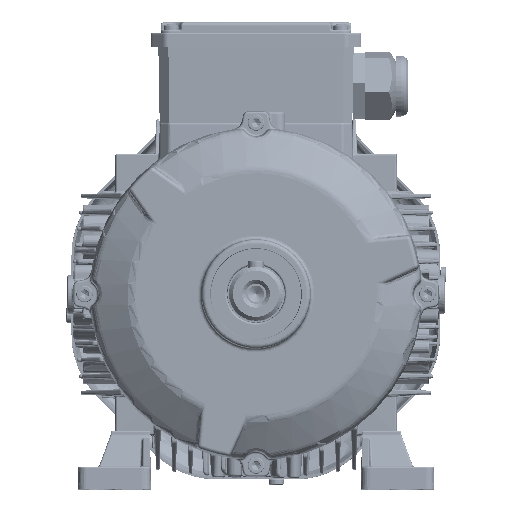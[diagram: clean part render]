
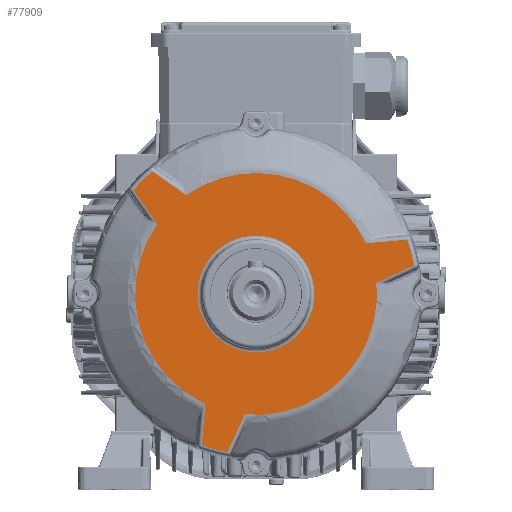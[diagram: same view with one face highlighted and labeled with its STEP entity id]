
A CAD part, top view. The second image highlights one B-rep face of the part: STEP entity #77909.
In plain terms, the highlighted planar face has unit normal (0, 0, 1).
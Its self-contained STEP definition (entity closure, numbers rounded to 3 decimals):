
#20345=B_SPLINE_CURVE_WITH_KNOTS('',3,(#476058,#476059,#476060,#476061),
 .UNSPECIFIED.,.F.,.F.,(4,4),(0.,1.),.UNSPECIFIED.);
#20346=B_SPLINE_CURVE_WITH_KNOTS('',3,(#476063,#476064,#476065,#476066),
 .UNSPECIFIED.,.F.,.F.,(4,4),(0.,1.),.UNSPECIFIED.);
#59929=FACE_BOUND('',#103192,.T.);
#59930=FACE_BOUND('',#103193,.T.);
#62754=PLANE('',#264651);
#77909=ADVANCED_FACE('',(#59929,#59930),#62754,.T.);
#103192=EDGE_LOOP('',(#156466));
#103193=EDGE_LOOP('',(#156467,#156468,#156469,#156470,#156471,#156472,#156473,
#156474,#156475,#156476,#156477,#156478,#156479,#156480));
#156466=ORIENTED_EDGE('',*,*,#205506,.T.);
#156467=ORIENTED_EDGE('',*,*,#205507,.T.);
#156468=ORIENTED_EDGE('',*,*,#205508,.F.);
#156469=ORIENTED_EDGE('',*,*,#205509,.T.);
#156470=ORIENTED_EDGE('',*,*,#205510,.T.);
#156471=ORIENTED_EDGE('',*,*,#205511,.T.);
#156472=ORIENTED_EDGE('',*,*,#205512,.F.);
#156473=ORIENTED_EDGE('',*,*,#205513,.T.);
#156474=ORIENTED_EDGE('',*,*,#205514,.T.);
#156475=ORIENTED_EDGE('',*,*,#205515,.T.);
#156476=ORIENTED_EDGE('',*,*,#205516,.F.);
#156477=ORIENTED_EDGE('',*,*,#205517,.F.);
#156478=ORIENTED_EDGE('',*,*,#205518,.F.);
#156479=ORIENTED_EDGE('',*,*,#205519,.T.);
#156480=ORIENTED_EDGE('',*,*,#205520,.T.);
#178044=VERTEX_POINT('',#476036);
#178045=VERTEX_POINT('',#476038);
#178046=VERTEX_POINT('',#476039);
#178047=VERTEX_POINT('',#476041);
#178048=VERTEX_POINT('',#476043);
#178049=VERTEX_POINT('',#476045);
#178050=VERTEX_POINT('',#476047);
#178051=VERTEX_POINT('',#476049);
#178052=VERTEX_POINT('',#476051);
#178053=VERTEX_POINT('',#476053);
#178054=VERTEX_POINT('',#476055);
#178055=VERTEX_POINT('',#476057);
#178056=VERTEX_POINT('',#476062);
#178057=VERTEX_POINT('',#476067);
#178058=VERTEX_POINT('',#476069);
#205506=EDGE_CURVE('',#178044,#178044,#236775,.T.);
#205507=EDGE_CURVE('',#178045,#178046,#217114,.T.);
#205508=EDGE_CURVE('',#178047,#178046,#236776,.T.);
#205509=EDGE_CURVE('',#178047,#178048,#217115,.T.);
#205510=EDGE_CURVE('',#178048,#178049,#236777,.T.);
#205511=EDGE_CURVE('',#178049,#178050,#217116,.T.);
#205512=EDGE_CURVE('',#178051,#178050,#236778,.T.);
#205513=EDGE_CURVE('',#178051,#178052,#217117,.T.);
#205514=EDGE_CURVE('',#178052,#178053,#236779,.T.);
#205515=EDGE_CURVE('',#178053,#178054,#217118,.T.);
#205516=EDGE_CURVE('',#178055,#178054,#236780,.T.);
#205517=EDGE_CURVE('',#178056,#178055,#20345,.T.);
#205518=EDGE_CURVE('',#178057,#178056,#20346,.T.);
#205519=EDGE_CURVE('',#178057,#178058,#217119,.T.);
#205520=EDGE_CURVE('',#178058,#178045,#236781,.T.);
#217114=LINE('',#476037,#226939);
#217115=LINE('',#476042,#226940);
#217116=LINE('',#476046,#226941);
#217117=LINE('',#476050,#226942);
#217118=LINE('',#476054,#226943);
#217119=LINE('',#476068,#226944);
#226939=VECTOR('',#314654,1.);
#226940=VECTOR('',#314657,1.);
#226941=VECTOR('',#314660,1.);
#226942=VECTOR('',#314663,1.);
#226943=VECTOR('',#314666,1.);
#226944=VECTOR('',#314669,1.);
#236775=CIRCLE('',#264644,30.326);
#236776=CIRCLE('',#264645,62.778);
#236777=CIRCLE('',#264646,83.387);
#236778=CIRCLE('',#264647,62.778);
#236779=CIRCLE('',#264648,83.387);
#236780=CIRCLE('',#264649,62.778);
#236781=CIRCLE('',#264650,83.387);
#264644=AXIS2_PLACEMENT_3D('',#476035,#314652,#314653);
#264645=AXIS2_PLACEMENT_3D('',#476040,#314655,#314656);
#264646=AXIS2_PLACEMENT_3D('',#476044,#314658,#314659);
#264647=AXIS2_PLACEMENT_3D('',#476048,#314661,#314662);
#264648=AXIS2_PLACEMENT_3D('',#476052,#314664,#314665);
#264649=AXIS2_PLACEMENT_3D('',#476056,#314667,#314668);
#264650=AXIS2_PLACEMENT_3D('',#476070,#314670,#314671);
#264651=AXIS2_PLACEMENT_3D('',#476071,#314672,#314673);
#314652=DIRECTION('',(0.,0.,-1.));
#314653=DIRECTION('',(0.707,0.707,0.));
#314654=DIRECTION('',(0.423,0.906,0.));
#314655=DIRECTION('',(0.,0.,-1.));
#314656=DIRECTION('',(-0.707,-0.707,0.));
#314657=DIRECTION('',(0.906,0.423,0.));
#314658=DIRECTION('',(0.,0.,1.));
#314659=DIRECTION('',(0.707,0.707,0.));
#314660=DIRECTION('',(-0.996,-0.087,0.));
#314661=DIRECTION('',(0.,0.,-1.));
#314662=DIRECTION('',(-0.707,-0.707,0.));
#314663=DIRECTION('',(-0.819,0.574,0.));
#314664=DIRECTION('',(0.,0.,1.));
#314665=DIRECTION('',(0.707,0.707,0.));
#314666=DIRECTION('',(0.574,-0.819,0.));
#314667=DIRECTION('',(0.,0.,-1.));
#314668=DIRECTION('',(-0.707,-0.707,0.));
#314669=DIRECTION('',(-0.087,-0.996,0.));
#314670=DIRECTION('',(0.,0.,1.));
#314671=DIRECTION('',(0.707,0.707,0.));
#314672=DIRECTION('',(0.,0.,1.));
#314673=DIRECTION('',(0.707,0.707,0.));
#476035=CARTESIAN_POINT('',(0.,0.,7.5));
#476036=CARTESIAN_POINT('',(21.444,21.444,7.5));
#476037=CARTESIAN_POINT('',(-5.441,-61.853,7.5));
#476038=CARTESIAN_POINT('',(-14.86,-82.052,7.5));
#476039=CARTESIAN_POINT('',(-5.749,-62.514,7.5));
#476040=CARTESIAN_POINT('',(0.,0.,7.5));
#476041=CARTESIAN_POINT('',(62.514,5.749,7.5));
#476042=CARTESIAN_POINT('',(83.389,15.483,7.5));
#476043=CARTESIAN_POINT('',(82.052,14.86,7.5));
#476044=CARTESIAN_POINT('',(0.,0.,7.5));
#476045=CARTESIAN_POINT('',(78.489,28.157,7.5));
#476046=CARTESIAN_POINT('',(56.286,26.215,7.5));
#476047=CARTESIAN_POINT('',(57.013,26.278,7.5));
#476048=CARTESIAN_POINT('',(0.,0.,7.5));
#476049=CARTESIAN_POINT('',(-36.235,51.264,7.5));
#476050=CARTESIAN_POINT('',(-55.103,64.476,7.5));
#476051=CARTESIAN_POINT('',(-53.895,63.629,7.5));
#476052=CARTESIAN_POINT('',(0.,0.,7.5));
#476053=CARTESIAN_POINT('',(-63.629,53.895,7.5));
#476054=CARTESIAN_POINT('',(-50.846,35.638,7.5));
#476055=CARTESIAN_POINT('',(-51.264,36.235,7.5));
#476056=CARTESIAN_POINT('',(0.,0.,7.5));
#476057=CARTESIAN_POINT('',(-29.274,-55.534,7.5));
#476058=CARTESIAN_POINT('',(-28.139,-56.118,7.5));
#476059=CARTESIAN_POINT('',(-28.519,-55.927,7.5));
#476060=CARTESIAN_POINT('',(-28.898,-55.733,7.5));
#476061=CARTESIAN_POINT('',(-29.274,-55.534,7.5));
#476062=CARTESIAN_POINT('',(-28.139,-56.118,7.5));
#476063=CARTESIAN_POINT('',(-26.278,-57.013,7.5));
#476064=CARTESIAN_POINT('',(-26.903,-56.725,7.5));
#476065=CARTESIAN_POINT('',(-27.524,-56.426,7.5));
#476066=CARTESIAN_POINT('',(-28.139,-56.118,7.5));
#476067=CARTESIAN_POINT('',(-26.278,-57.013,7.5));
#476068=CARTESIAN_POINT('',(-28.286,-79.959,7.5));
#476069=CARTESIAN_POINT('',(-28.157,-78.489,7.5));
#476070=CARTESIAN_POINT('',(0.,0.,7.5));
#476071=CARTESIAN_POINT('',(-44.39,44.39,7.5));
